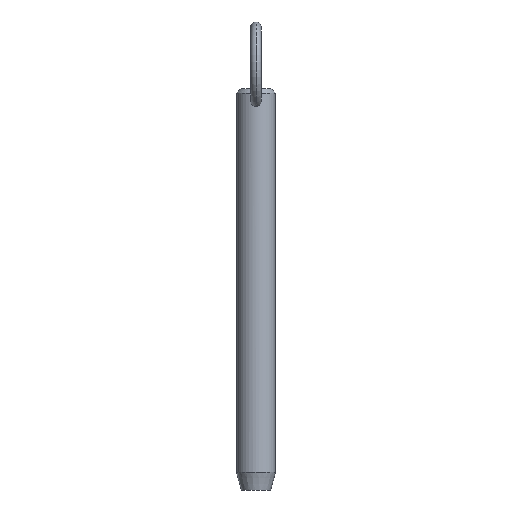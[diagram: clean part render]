
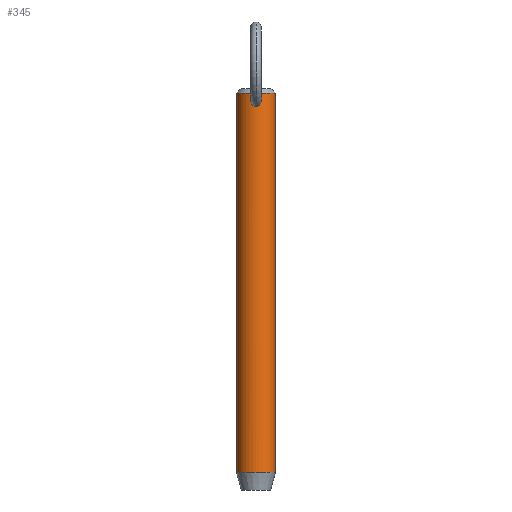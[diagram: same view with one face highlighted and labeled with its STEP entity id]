
A CAD part, front view. The second image highlights one B-rep face of the part: STEP entity #345.
In plain terms, the highlighted cylindrical face has radius 5.55 mm (diameter 11.1 mm), a partial arc.
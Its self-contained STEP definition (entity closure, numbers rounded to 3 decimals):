
#12 = CARTESIAN_POINT ( 'NONE',  ( -0.976, -5.464, 95.631 ) ) ;
#14 = CARTESIAN_POINT ( 'NONE',  ( 1.477, -5.35, 96.544 ) ) ;
#16 = VERTEX_POINT ( 'NONE', #239 ) ;
#17 = CARTESIAN_POINT ( 'NONE',  ( 1.26, -5.407, 95.943 ) ) ;
#21 = CARTESIAN_POINT ( 'NONE',  ( -1.362, -5.381, 96.132 ) ) ;
#29 = ORIENTED_EDGE ( 'NONE', *, *, #247, .T. ) ;
#34 = LINE ( 'NONE', #245, #464 ) ;
#52 = CARTESIAN_POINT ( 'NONE',  ( 0.977, -5.464, 95.632 ) ) ;
#58 = CARTESIAN_POINT ( 'NONE',  ( -0.106, -5.55, 98.745 ) ) ;
#60 = CARTESIAN_POINT ( 'NONE',  ( 0.716, -5.504, 95.452 ) ) ;
#61 = CARTESIAN_POINT ( 'NONE',  ( -1.26, -5.407, 95.942 ) ) ;
#70 = CARTESIAN_POINT ( 'NONE',  ( -1.5, -5.343, 96.753 ) ) ;
#72 = CARTESIAN_POINT ( 'NONE',  ( 0., 0., 94. ) ) ;
#75 = CIRCLE ( 'NONE', #146, 5.55 ) ;
#76 = DIRECTION ( 'NONE',  ( 1., 0., 0. ) ) ;
#80 = DIRECTION ( 'NONE',  ( 0., 0., -1. ) ) ;
#90 = CARTESIAN_POINT ( 'NONE',  ( 0.106, -5.55, 98.745 ) ) ;
#97 = CARTESIAN_POINT ( 'NONE',  ( -0.42, -5.535, 95.332 ) ) ;
#102 = CARTESIAN_POINT ( 'NONE',  ( 1.486, -5.347, 97.174 ) ) ;
#106 = CARTESIAN_POINT ( 'NONE',  ( 0.421, -5.535, 95.332 ) ) ;
#116 = CARTESIAN_POINT ( 'NONE',  ( 0., 0., 99.05 ) ) ;
#118 = CARTESIAN_POINT ( 'NONE',  ( -0.416, -5.535, 98.667 ) ) ;
#123 = CARTESIAN_POINT ( 'NONE',  ( -5.55, 0., -9.2 ) ) ;
#126 = CARTESIAN_POINT ( 'NONE',  ( 0.417, -5.535, 98.667 ) ) ;
#132 = B_SPLINE_CURVE_WITH_KNOTS ( 'NONE', 3,
 ( #134, #143, #351, #97, #425, #385, #259, #12, #500, #61, #21, #309, #353, #70, #193, #362, #402, #311, #274, #396, #313, #521, #118, #389, #58, #467 ),
 .UNSPECIFIED., .F., .F.,
 ( 4, 2, 2, 2, 2, 2, 2, 2, 2, 2, 2, 2, 4 ),
 ( 0.01, 0.01, 0.01, 0.011, 0.011, 0.012, 0.012, 0.012, 0.013, 0.013, 0.014, 0.014, 0.015 ),
 .UNSPECIFIED. ) ;
#134 = CARTESIAN_POINT ( 'NONE',  ( 0., -5.55, 95.277 ) ) ;
#143 = CARTESIAN_POINT ( 'NONE',  ( -0.107, -5.55, 95.277 ) ) ;
#146 = AXIS2_PLACEMENT_3D ( 'NONE', #527, #286, #375 ) ;
#147 = ORIENTED_EDGE ( 'NONE', *, *, #516, .T. ) ;
#150 = VECTOR ( 'NONE', #165, 1000. ) ;
#152 = VERTEX_POINT ( 'NONE', #435 ) ;
#161 = CARTESIAN_POINT ( 'NONE',  ( 0.786, -5.497, 98.457 ) ) ;
#165 = DIRECTION ( 'NONE',  ( 0., 0., -1. ) ) ;
#169 = AXIS2_PLACEMENT_3D ( 'NONE', #72, #408, #232 ) ;
#170 = CARTESIAN_POINT ( 'NONE',  ( -5.55, 0., 94. ) ) ;
#184 = VERTEX_POINT ( 'NONE', #394 ) ;
#193 = CARTESIAN_POINT ( 'NONE',  ( -1.503, -5.343, 96.859 ) ) ;
#201 = CARTESIAN_POINT ( 'NONE',  ( 5.55, 0., -9.2 ) ) ;
#214 = B_SPLINE_CURVE_WITH_KNOTS ( 'NONE', 3,
 ( #450, #90, #413, #126, #415, #161, #449, #429, #390, #431, #102, #342, #218, #14, #506, #264, #17, #299, #52, #305, #60, #350, #106, #433, #468, #427 ),
 .UNSPECIFIED., .F., .F.,
 ( 4, 2, 2, 2, 2, 2, 2, 2, 2, 2, 2, 2, 4 ),
 ( 0.005, 0.005, 0.005, 0.006, 0.006, 0.007, 0.007, 0.008, 0.008, 0.009, 0.009, 0.009, 0.01 ),
 .UNSPECIFIED. ) ;
#218 = CARTESIAN_POINT ( 'NONE',  ( 1.5, -5.343, 96.754 ) ) ;
#232 = DIRECTION ( 'NONE',  ( -1., 0., 0. ) ) ;
#235 = DIRECTION ( 'NONE',  ( 0., 0., -1. ) ) ;
#239 = CARTESIAN_POINT ( 'NONE',  ( 5.55, 0., 99.05 ) ) ;
#245 = CARTESIAN_POINT ( 'NONE',  ( 5.55, 0., 94. ) ) ;
#247 = EDGE_CURVE ( 'NONE', #428, #184, #132, .T. ) ;
#259 = CARTESIAN_POINT ( 'NONE',  ( -0.807, -5.492, 95.505 ) ) ;
#260 = CYLINDRICAL_SURFACE ( 'NONE', #169, 5.55 ) ;
#264 = CARTESIAN_POINT ( 'NONE',  ( 1.363, -5.38, 96.134 ) ) ;
#274 = CARTESIAN_POINT ( 'NONE',  ( -1.195, -5.421, 97.971 ) ) ;
#286 = DIRECTION ( 'NONE',  ( 0., 0., 1. ) ) ;
#299 = CARTESIAN_POINT ( 'NONE',  ( 1.055, -5.449, 95.705 ) ) ;
#305 = CARTESIAN_POINT ( 'NONE',  ( 0.807, -5.492, 95.506 ) ) ;
#309 = CARTESIAN_POINT ( 'NONE',  ( -1.455, -5.356, 96.436 ) ) ;
#311 = CARTESIAN_POINT ( 'NONE',  ( -1.294, -5.398, 97.786 ) ) ;
#313 = CARTESIAN_POINT ( 'NONE',  ( -0.785, -5.497, 98.458 ) ) ;
#342 = CARTESIAN_POINT ( 'NONE',  ( 1.503, -5.343, 96.859 ) ) ;
#345 = ADVANCED_FACE ( 'NONE', ( #387, #455 ), #260, .T. ) ;
#350 = CARTESIAN_POINT ( 'NONE',  ( 0.523, -5.526, 95.366 ) ) ;
#351 = CARTESIAN_POINT ( 'NONE',  ( -0.212, -5.547, 95.288 ) ) ;
#352 = EDGE_CURVE ( 'NONE', #16, #152, #360, .T. ) ;
#353 = CARTESIAN_POINT ( 'NONE',  ( -1.477, -5.35, 96.542 ) ) ;
#356 = VERTEX_POINT ( 'NONE', #201 ) ;
#360 = CIRCLE ( 'NONE', #452, 5.55 ) ;
#362 = CARTESIAN_POINT ( 'NONE',  ( -1.485, -5.348, 97.179 ) ) ;
#373 = EDGE_LOOP ( 'NONE', ( #444, #448, #147, #393 ) ) ;
#375 = DIRECTION ( 'NONE',  ( -1., 0., 0. ) ) ;
#385 = CARTESIAN_POINT ( 'NONE',  ( -0.716, -5.504, 95.452 ) ) ;
#387 = FACE_OUTER_BOUND ( 'NONE', #373, .T. ) ;
#389 = CARTESIAN_POINT ( 'NONE',  ( -0.211, -5.547, 98.729 ) ) ;
#390 = CARTESIAN_POINT ( 'NONE',  ( 1.295, -5.397, 97.782 ) ) ;
#393 = ORIENTED_EDGE ( 'NONE', *, *, #510, .T. ) ;
#394 = CARTESIAN_POINT ( 'NONE',  ( 0., -5.55, 98.745 ) ) ;
#396 = CARTESIAN_POINT ( 'NONE',  ( -0.939, -5.472, 98.31 ) ) ;
#402 = CARTESIAN_POINT ( 'NONE',  ( -1.44, -5.36, 97.387 ) ) ;
#406 = CARTESIAN_POINT ( 'NONE',  ( 0., -5.55, 95.277 ) ) ;
#408 = DIRECTION ( 'NONE',  ( 0., 0., -1. ) ) ;
#413 = CARTESIAN_POINT ( 'NONE',  ( 0.214, -5.547, 98.728 ) ) ;
#415 = CARTESIAN_POINT ( 'NONE',  ( 0.515, -5.527, 98.622 ) ) ;
#419 = LINE ( 'NONE', #170, #150 ) ;
#425 = CARTESIAN_POINT ( 'NONE',  ( -0.523, -5.526, 95.366 ) ) ;
#427 = CARTESIAN_POINT ( 'NONE',  ( 0., -5.55, 95.277 ) ) ;
#428 = VERTEX_POINT ( 'NONE', #406 ) ;
#429 = CARTESIAN_POINT ( 'NONE',  ( 1.194, -5.422, 97.971 ) ) ;
#431 = CARTESIAN_POINT ( 'NONE',  ( 1.44, -5.36, 97.386 ) ) ;
#433 = CARTESIAN_POINT ( 'NONE',  ( 0.213, -5.547, 95.288 ) ) ;
#435 = CARTESIAN_POINT ( 'NONE',  ( -5.55, 0., 99.05 ) ) ;
#444 = ORIENTED_EDGE ( 'NONE', *, *, #466, .F. ) ;
#448 = ORIENTED_EDGE ( 'NONE', *, *, #352, .T. ) ;
#449 = CARTESIAN_POINT ( 'NONE',  ( 0.941, -5.471, 98.307 ) ) ;
#450 = CARTESIAN_POINT ( 'NONE',  ( 0., -5.55, 98.745 ) ) ;
#452 = AXIS2_PLACEMENT_3D ( 'NONE', #116, #235, #76 ) ;
#455 = FACE_BOUND ( 'NONE', #504, .T. ) ;
#464 = VECTOR ( 'NONE', #80, 1000. ) ;
#465 = ORIENTED_EDGE ( 'NONE', *, *, #525, .T. ) ;
#466 = EDGE_CURVE ( 'NONE', #16, #356, #34, .T. ) ;
#467 = CARTESIAN_POINT ( 'NONE',  ( 0., -5.55, 98.745 ) ) ;
#468 = CARTESIAN_POINT ( 'NONE',  ( 0.107, -5.55, 95.277 ) ) ;
#500 = CARTESIAN_POINT ( 'NONE',  ( -1.054, -5.449, 95.704 ) ) ;
#504 = EDGE_LOOP ( 'NONE', ( #465, #29 ) ) ;
#506 = CARTESIAN_POINT ( 'NONE',  ( 1.455, -5.356, 96.438 ) ) ;
#510 = EDGE_CURVE ( 'NONE', #519, #356, #75, .T. ) ;
#516 = EDGE_CURVE ( 'NONE', #152, #519, #419, .T. ) ;
#519 = VERTEX_POINT ( 'NONE', #123 ) ;
#521 = CARTESIAN_POINT ( 'NONE',  ( -0.513, -5.527, 98.623 ) ) ;
#525 = EDGE_CURVE ( 'NONE', #184, #428, #214, .T. ) ;
#527 = CARTESIAN_POINT ( 'NONE',  ( 0., 0., -9.2 ) ) ;
